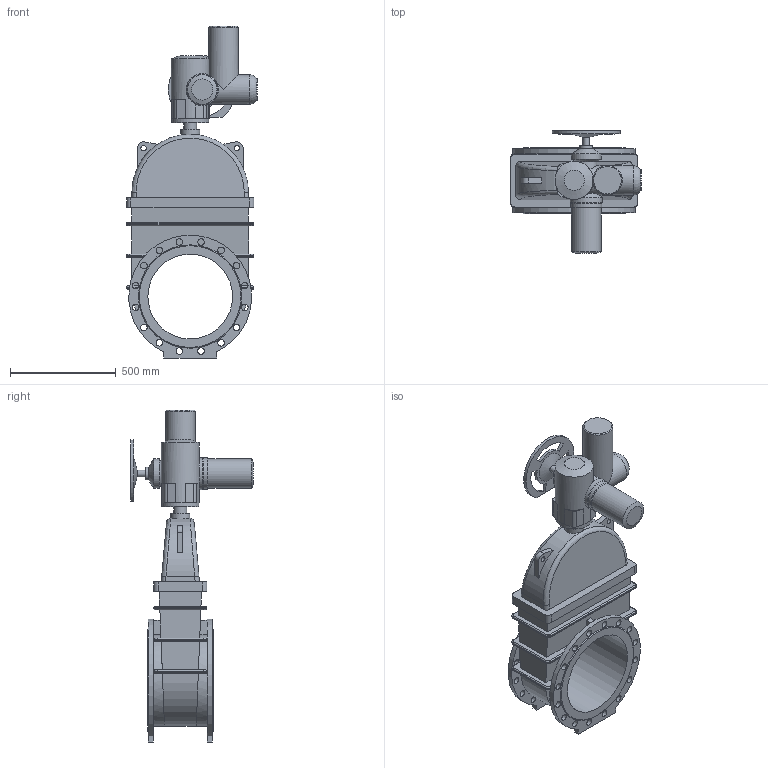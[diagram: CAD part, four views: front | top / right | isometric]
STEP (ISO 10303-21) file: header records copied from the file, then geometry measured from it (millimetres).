
FILE_DESCRIPTION(('STEP AP203'), '1');
FILE_NAME('青溻桄赅 47GVA.Z DN400 PN16+MT903.A30', '', ('UNSPECIFIED'), ('UNSPECIFIED'), 'ASCON STEP Converter 1.6', 'ASCON Math Kernel', '');
FILE_SCHEMA(('CONFIG_CONTROL_DESIGN'));
Length unit declared in the file: millimetre
Bounding box: 617 x 578 x 1567 mm (x, y, z)
Volume: 95605790.5 mm3; surface area: 3354297.5 mm2
Topology: 2 solids, 2 shells, 323 faces, 814 edges, 521 vertices
Faces by surface type: cylinder 145, plane 140, bspline 26, cone 11, torus 1
Full cylindrical faces by diameter (mm): 14 x4, 18 x4, 25 x2, 30 x1, 31 x32, 32 x1, 60 x2, 90 x1, 100 x3, 140 x4, 147 x1, 151 x1, 175 x1, 400 x1
Entity records: 16200 total; most frequent: CARTESIAN_POINT 6122, ORIENTED_EDGE 1490, DIRECTION 1466, EDGE_CURVE 745, AXIS2_PLACEMENT_3D 550, VERTEX_POINT 521, EDGE_LOOP 502, FACE_BOUND 370
